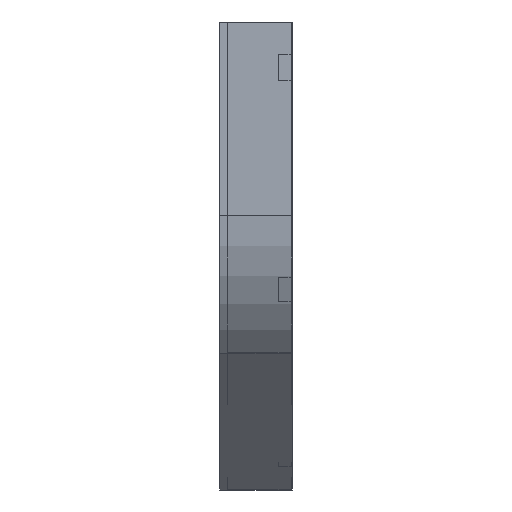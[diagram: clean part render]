
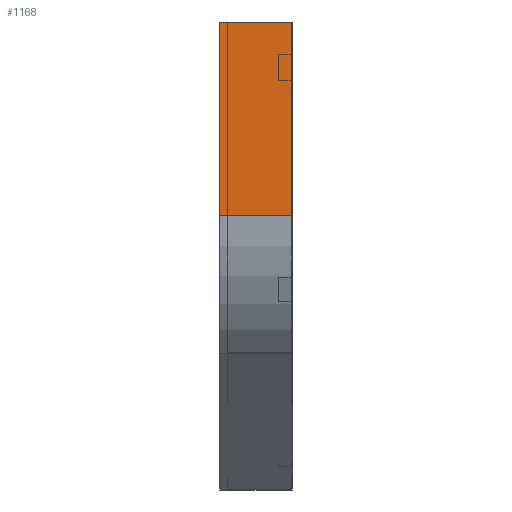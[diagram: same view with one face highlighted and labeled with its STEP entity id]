
A CAD part, left-side view. The second image highlights one B-rep face of the part: STEP entity #1168.
In plain terms, the highlighted planar face has unit normal (-1, 0, 0).
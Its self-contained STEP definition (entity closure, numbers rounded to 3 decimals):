
#19 = LINE ( 'NONE', #1169, #899 ) ;
#25 = PLANE ( 'NONE',  #631 ) ;
#37 = VECTOR ( 'NONE', #581, 1000. ) ;
#144 = LINE ( 'NONE', #1291, #37 ) ;
#270 = ORIENTED_EDGE ( 'NONE', *, *, #1696, .T. ) ;
#297 = CARTESIAN_POINT ( 'NONE',  ( 0., 112.5, 0. ) ) ;
#375 = CARTESIAN_POINT ( 'NONE',  ( 0., 0., 0. ) ) ;
#487 = VECTOR ( 'NONE', #1638, 1000. ) ;
#507 = ORIENTED_EDGE ( 'NONE', *, *, #1561, .T. ) ;
#510 = EDGE_CURVE ( 'NONE', #699, #1789, #570, .T. ) ;
#525 = ORIENTED_EDGE ( 'NONE', *, *, #1448, .F. ) ;
#570 = LINE ( 'NONE', #1329, #959 ) ;
#581 = DIRECTION ( 'NONE',  ( 0., -1., 0. ) ) ;
#591 = DIRECTION ( 'NONE',  ( 0., 0., -1. ) ) ;
#631 = AXIS2_PLACEMENT_3D ( 'NONE', #1627, #900, #1196 ) ;
#699 = VERTEX_POINT ( 'NONE', #375 ) ;
#851 = ORIENTED_EDGE ( 'NONE', *, *, #510, .F. ) ;
#899 = VECTOR ( 'NONE', #591, 1000. ) ;
#900 = DIRECTION ( 'NONE',  ( 1., 0., 0. ) ) ;
#959 = VECTOR ( 'NONE', #1148, 1000. ) ;
#1065 = FACE_OUTER_BOUND ( 'NONE', #1175, .T. ) ;
#1087 = VERTEX_POINT ( 'NONE', #297 ) ;
#1126 = CARTESIAN_POINT ( 'NONE',  ( 0., 112.5, -298.528 ) ) ;
#1148 = DIRECTION ( 'NONE',  ( 0., 0., -1. ) ) ;
#1168 = ADVANCED_FACE ( 'NONE', ( #1065 ), #25, .F. ) ;
#1169 = CARTESIAN_POINT ( 'NONE',  ( 0., 112.5, 0. ) ) ;
#1175 = EDGE_LOOP ( 'NONE', ( #851, #525, #507, #270 ) ) ;
#1196 = DIRECTION ( 'NONE',  ( 0., 0., -1. ) ) ;
#1199 = LINE ( 'NONE', #1612, #487 ) ;
#1291 = CARTESIAN_POINT ( 'NONE',  ( 0., 0., -298.528 ) ) ;
#1329 = CARTESIAN_POINT ( 'NONE',  ( 0., 0., 0. ) ) ;
#1378 = CARTESIAN_POINT ( 'NONE',  ( 0., 0., -298.528 ) ) ;
#1448 = EDGE_CURVE ( 'NONE', #1087, #699, #1199, .T. ) ;
#1561 = EDGE_CURVE ( 'NONE', #1087, #1580, #19, .T. ) ;
#1580 = VERTEX_POINT ( 'NONE', #1126 ) ;
#1612 = CARTESIAN_POINT ( 'NONE',  ( 0., 0., 0. ) ) ;
#1627 = CARTESIAN_POINT ( 'NONE',  ( 0., 0., 0. ) ) ;
#1638 = DIRECTION ( 'NONE',  ( 0., -1., 0. ) ) ;
#1696 = EDGE_CURVE ( 'NONE', #1580, #1789, #144, .T. ) ;
#1789 = VERTEX_POINT ( 'NONE', #1378 ) ;
